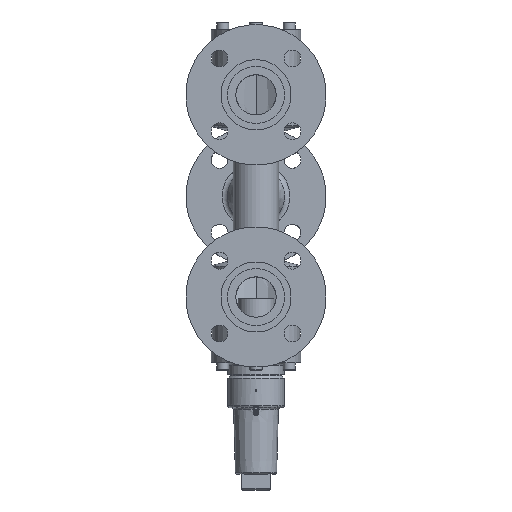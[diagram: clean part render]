
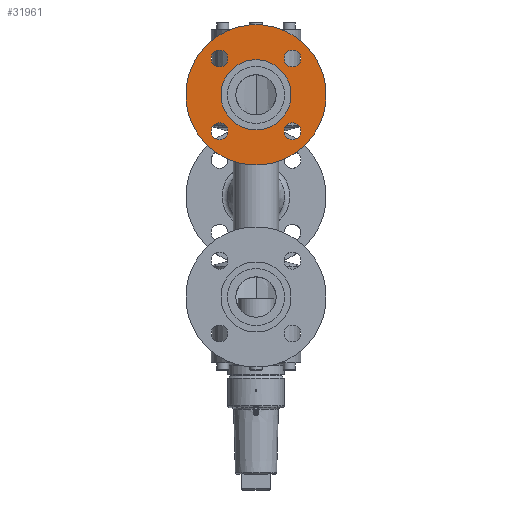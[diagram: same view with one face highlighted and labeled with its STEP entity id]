
A CAD part, top view. The second image highlights one B-rep face of the part: STEP entity #31961.
In plain terms, the highlighted planar face has unit normal (0, 0, 1) as drawn and (0, -1, 0) by its records, which use the part's own axes.
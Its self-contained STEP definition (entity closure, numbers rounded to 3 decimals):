
#112 = VERTEX_POINT ( 'NONE', #1495 ) ;
#245 = CARTESIAN_POINT ( 'NONE',  ( 46., 4., 0. ) ) ;
#349 = VERTEX_POINT ( 'NONE', #1771 ) ;
#508 = CARTESIAN_POINT ( 'NONE',  ( 64., 4., 0. ) ) ;
#535 = CIRCLE ( 'NONE', #536, 9. ) ;
#536 = AXIS2_PLACEMENT_3D ( 'NONE', #537, #538, #539 ) ;
#537 = CARTESIAN_POINT ( 'NONE',  ( 0., 4., -55. ) ) ;
#538 = DIRECTION ( 'NONE',  ( 0., 1., 0. ) ) ;
#539 = DIRECTION ( 'NONE',  ( 1., 0., 0. ) ) ;
#580 = EDGE_CURVE ( 'NONE', #349, #112, #1880, .T. ) ;
#17115 = ORIENTED_EDGE ( 'NONE', *, *, #18358, .T. ) ;
#750 = CIRCLE ( 'NONE', #751, 9. ) ;
#751 = AXIS2_PLACEMENT_3D ( 'NONE', #752, #753, #754 ) ;
#752 = CARTESIAN_POINT ( 'NONE',  ( 55., 4., 0. ) ) ;
#753 = DIRECTION ( 'NONE',  ( 0., 1., 0. ) ) ;
#754 = DIRECTION ( 'NONE',  ( 1., 0., 0. ) ) ;
#34197 = EDGE_CURVE ( 'NONE', #10501, #10930, #14601, .T. ) ;
#1495 = CARTESIAN_POINT ( 'NONE',  ( -75., 4., 0. ) ) ;
#1661 = CARTESIAN_POINT ( 'NONE',  ( -64., 4., 0. ) ) ;
#18104 = EDGE_LOOP ( 'NONE', ( #17115, #16120 ) ) ;
#1771 = CARTESIAN_POINT ( 'NONE',  ( 75., 4., 0. ) ) ;
#1880 = CIRCLE ( 'NONE', #1881, 75. ) ;
#1881 = AXIS2_PLACEMENT_3D ( 'NONE', #1882, #1883, #1884 ) ;
#1882 = CARTESIAN_POINT ( 'NONE',  ( 0., 4., 0. ) ) ;
#1883 = DIRECTION ( 'NONE',  ( 0., -1., 0. ) ) ;
#1884 = DIRECTION ( 'NONE',  ( 1., 0., 0. ) ) ;
#18358 = EDGE_CURVE ( 'NONE', #112, #349, #22654, .T. ) ;
#2084 = VERTEX_POINT ( 'NONE', #6008 ) ;
#18570 = VERTEX_POINT ( 'NONE', #22760 ) ;
#18571 = ORIENTED_EDGE ( 'NONE', *, *, #19433, .T. ) ;
#2199 = CARTESIAN_POINT ( 'NONE',  ( -46., 4., 0. ) ) ;
#2524 = VERTEX_POINT ( 'NONE', #7342 ) ;
#19000 = VERTEX_POINT ( 'NONE', #23045 ) ;
#19253 = VERTEX_POINT ( 'NONE', #23220 ) ;
#2949 = EDGE_CURVE ( 'NONE', #2524, #2084, #7573, .T. ) ;
#3014 = CIRCLE ( 'NONE', #3015, 9. ) ;
#3015 = AXIS2_PLACEMENT_3D ( 'NONE', #3016, #3034, #3035 ) ;
#3016 = CARTESIAN_POINT ( 'NONE',  ( -55., 4., 0. ) ) ;
#3034 = DIRECTION ( 'NONE',  ( 0., 1., 0. ) ) ;
#3035 = DIRECTION ( 'NONE',  ( 1., 0., 0. ) ) ;
#3036 = CIRCLE ( 'NONE', #3037, 9. ) ;
#3037 = AXIS2_PLACEMENT_3D ( 'NONE', #3038, #3039, #3040 ) ;
#3038 = CARTESIAN_POINT ( 'NONE',  ( 55., 4., 0. ) ) ;
#3039 = DIRECTION ( 'NONE',  ( 0., 1., 0. ) ) ;
#3040 = DIRECTION ( 'NONE',  ( 1., 0., 0. ) ) ;
#19433 = EDGE_CURVE ( 'NONE', #19000, #18570, #23292, .T. ) ;
#19575 = ORIENTED_EDGE ( 'NONE', *, *, #22942, .T. ) ;
#4181 = ORIENTED_EDGE ( 'NONE', *, *, #9337, .T. ) ;
#20873 = EDGE_LOOP ( 'NONE', ( #19575, #18571 ) ) ;
#21343 = ORIENTED_EDGE ( 'NONE', *, *, #2949, .T. ) ;
#5175 = EDGE_LOOP ( 'NONE', ( #4181, #21343 ) ) ;
#5636 = EDGE_CURVE ( 'NONE', #19253, #24967, #9804, .T. ) ;
#6008 = CARTESIAN_POINT ( 'NONE',  ( -9., 4., -55. ) ) ;
#22654 = CIRCLE ( 'NONE', #22655, 75. ) ;
#22655 = AXIS2_PLACEMENT_3D ( 'NONE', #22656, #22657, #22658 ) ;
#22656 = CARTESIAN_POINT ( 'NONE',  ( 0., 4., 0. ) ) ;
#22657 = DIRECTION ( 'NONE',  ( 0., -1., 0. ) ) ;
#22658 = DIRECTION ( 'NONE',  ( 1., 0., 0. ) ) ;
#6349 = ORIENTED_EDGE ( 'NONE', *, *, #5636, .F. ) ;
#22760 = CARTESIAN_POINT ( 'NONE',  ( -9., 4., 55. ) ) ;
#6409 = CIRCLE ( 'NONE', #6410, 37.5 ) ;
#6410 = AXIS2_PLACEMENT_3D ( 'NONE', #6411, #6412, #6413 ) ;
#6411 = CARTESIAN_POINT ( 'NONE',  ( 0., 4., 0. ) ) ;
#6412 = DIRECTION ( 'NONE',  ( 0., -1., 0. ) ) ;
#6413 = DIRECTION ( 'NONE',  ( 1., 0., 0. ) ) ;
#22942 = EDGE_CURVE ( 'NONE', #18570, #19000, #31273, .T. ) ;
#23045 = CARTESIAN_POINT ( 'NONE',  ( 9., 4., 55. ) ) ;
#23220 = CARTESIAN_POINT ( 'NONE',  ( -37.5, 4., 0. ) ) ;
#23292 = CIRCLE ( 'NONE', #23293, 9. ) ;
#23293 = AXIS2_PLACEMENT_3D ( 'NONE', #23294, #23295, #23296 ) ;
#23294 = CARTESIAN_POINT ( 'NONE',  ( 0., 4., 55. ) ) ;
#23295 = DIRECTION ( 'NONE',  ( 0., 1., 0. ) ) ;
#23296 = DIRECTION ( 'NONE',  ( 1., 0., 0. ) ) ;
#7336 = ORIENTED_EDGE ( 'NONE', *, *, #31570, .F. ) ;
#7342 = CARTESIAN_POINT ( 'NONE',  ( 9., 4., -55. ) ) ;
#7361 = FACE_BOUND ( 'NONE', #31496, .T. ) ;
#7362 = FACE_BOUND ( 'NONE', #10784, .T. ) ;
#7363 = FACE_BOUND ( 'NONE', #8338, .T. ) ;
#7364 = FACE_BOUND ( 'NONE', #5175, .T. ) ;
#7365 = FACE_BOUND ( 'NONE', #20873, .T. ) ;
#7366 = FACE_OUTER_BOUND ( 'NONE', #18104, .T. ) ;
#7367 = PLANE ( 'NONE',  #7368 ) ;
#7368 = AXIS2_PLACEMENT_3D ( 'NONE', #7369, #7370, #7371 ) ;
#7369 = CARTESIAN_POINT ( 'NONE',  ( 0., 4., 0. ) ) ;
#7370 = DIRECTION ( 'NONE',  ( 0., -1., 0. ) ) ;
#7371 = DIRECTION ( 'NONE',  ( 1., 0., 0. ) ) ;
#7573 = CIRCLE ( 'NONE', #7574, 9. ) ;
#7574 = AXIS2_PLACEMENT_3D ( 'NONE', #7594, #7595, #7596 ) ;
#7594 = CARTESIAN_POINT ( 'NONE',  ( 0., 4., -55. ) ) ;
#7595 = DIRECTION ( 'NONE',  ( 0., 1., 0. ) ) ;
#7596 = DIRECTION ( 'NONE',  ( 1., 0., 0. ) ) ;
#8338 = EDGE_LOOP ( 'NONE', ( #7336, #6349 ) ) ;
#24967 = VERTEX_POINT ( 'NONE', #10473 ) ;
#8810 = ORIENTED_EDGE ( 'NONE', *, *, #11358, .T. ) ;
#9337 = EDGE_CURVE ( 'NONE', #2084, #2524, #535, .T. ) ;
#9796 = ORIENTED_EDGE ( 'NONE', *, *, #34197, .T. ) ;
#9804 = CIRCLE ( 'NONE', #9805, 37.5 ) ;
#9805 = AXIS2_PLACEMENT_3D ( 'NONE', #9806, #9807, #9808 ) ;
#9806 = CARTESIAN_POINT ( 'NONE',  ( 0., 4., 0. ) ) ;
#9807 = DIRECTION ( 'NONE',  ( 0., -1., 0. ) ) ;
#9808 = DIRECTION ( 'NONE',  ( 1., 0., 0. ) ) ;
#10473 = CARTESIAN_POINT ( 'NONE',  ( 37.5, 4., 0. ) ) ;
#10501 = VERTEX_POINT ( 'NONE', #1661 ) ;
#27003 = VERTEX_POINT ( 'NONE', #245 ) ;
#10784 = EDGE_LOOP ( 'NONE', ( #9796, #8810 ) ) ;
#10930 = VERTEX_POINT ( 'NONE', #2199 ) ;
#27432 = VERTEX_POINT ( 'NONE', #508 ) ;
#11251 = ORIENTED_EDGE ( 'NONE', *, *, #27868, .T. ) ;
#11358 = EDGE_CURVE ( 'NONE', #10930, #10501, #3014, .T. ) ;
#27868 = EDGE_CURVE ( 'NONE', #27432, #27003, #750, .T. ) ;
#12240 = ORIENTED_EDGE ( 'NONE', *, *, #29575, .T. ) ;
#29575 = EDGE_CURVE ( 'NONE', #27003, #27432, #3036, .T. ) ;
#14601 = CIRCLE ( 'NONE', #14602, 9. ) ;
#14602 = AXIS2_PLACEMENT_3D ( 'NONE', #14603, #14604, #14605 ) ;
#14603 = CARTESIAN_POINT ( 'NONE',  ( -55., 4., 0. ) ) ;
#14604 = DIRECTION ( 'NONE',  ( 0., 1., 0. ) ) ;
#14605 = DIRECTION ( 'NONE',  ( 1., 0., 0. ) ) ;
#31273 = CIRCLE ( 'NONE', #31274, 9. ) ;
#31274 = AXIS2_PLACEMENT_3D ( 'NONE', #31275, #31276, #31277 ) ;
#31275 = CARTESIAN_POINT ( 'NONE',  ( 0., 4., 55. ) ) ;
#31276 = DIRECTION ( 'NONE',  ( 0., 1., 0. ) ) ;
#31277 = DIRECTION ( 'NONE',  ( 1., 0., 0. ) ) ;
#31496 = EDGE_LOOP ( 'NONE', ( #12240, #11251 ) ) ;
#31570 = EDGE_CURVE ( 'NONE', #24967, #19253, #6409, .T. ) ;
#31961 = ADVANCED_FACE ( 'NONE', ( #7361, #7362, #7363, #7364, #7365, #7366 ), #7367, .T. ) ;
#16120 = ORIENTED_EDGE ( 'NONE', *, *, #580, .T. ) ;
